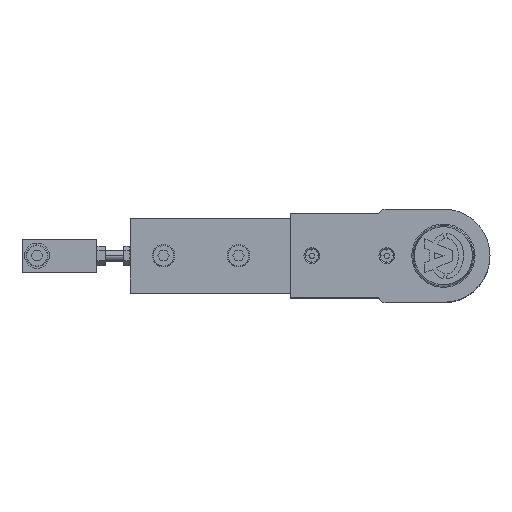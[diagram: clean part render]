
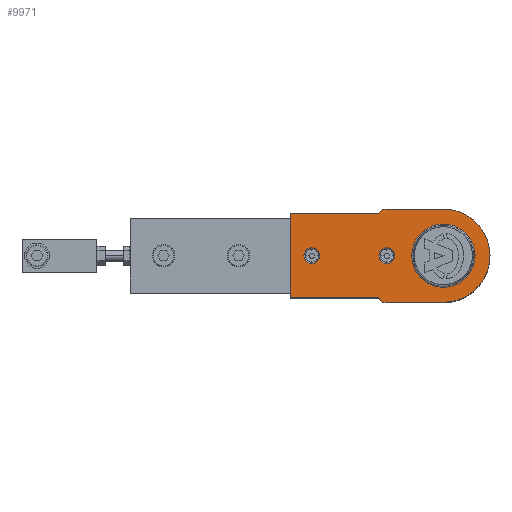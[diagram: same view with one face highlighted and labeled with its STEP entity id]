
A CAD part, top view. The second image highlights one B-rep face of the part: STEP entity #9971.
In plain terms, the highlighted planar face has unit normal (0, 0, 1).
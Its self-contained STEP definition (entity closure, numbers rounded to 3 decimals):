
#87 = CARTESIAN_POINT ( 'NONE',  ( 0., -28., 37. ) ) ;
#356 = DIRECTION ( 'NONE',  ( 0., 0., 1. ) ) ;
#447 = DIRECTION ( 'NONE',  ( -0.707, 0.707, 0. ) ) ;
#542 = CIRCLE ( 'NONE', #688, 28. ) ;
#666 = VERTEX_POINT ( 'NONE', #87 ) ;
#688 = AXIS2_PLACEMENT_3D ( 'NONE', #7211, #12786, #10643 ) ;
#754 = EDGE_CURVE ( 'NONE', #770, #3088, #4440, .T. ) ;
#770 = VERTEX_POINT ( 'NONE', #5959 ) ;
#839 = ORIENTED_EDGE ( 'NONE', *, *, #1164, .T. ) ;
#897 = LINE ( 'NONE', #5974, #5073 ) ;
#1029 = DIRECTION ( 'NONE',  ( 1., 0., 0. ) ) ;
#1071 = DIRECTION ( 'NONE',  ( 1., 0., 0. ) ) ;
#1086 = CARTESIAN_POINT ( 'NONE',  ( 39., -25.25, 37. ) ) ;
#1164 = EDGE_CURVE ( 'NONE', #12106, #8264, #2348, .T. ) ;
#1318 = DIRECTION ( 'NONE',  ( 1., 0., 0. ) ) ;
#1358 = CARTESIAN_POINT ( 'NONE',  ( 39., 25.25, 37. ) ) ;
#1531 = DIRECTION ( 'NONE',  ( 0., 0., 1. ) ) ;
#1768 = VECTOR ( 'NONE', #2477, 1000. ) ;
#1901 = DIRECTION ( 'NONE',  ( 0., 0., -1. ) ) ;
#1945 = VERTEX_POINT ( 'NONE', #13920 ) ;
#1961 = FACE_OUTER_BOUND ( 'NONE', #7803, .T. ) ;
#2096 = DIRECTION ( 'NONE',  ( 0., 0., 1. ) ) ;
#2321 = FACE_BOUND ( 'NONE', #5683, .T. ) ;
#2348 = LINE ( 'NONE', #13501, #8935 ) ;
#2477 = DIRECTION ( 'NONE',  ( -1., 0., 0. ) ) ;
#2557 = ORIENTED_EDGE ( 'NONE', *, *, #5885, .T. ) ;
#2619 = CARTESIAN_POINT ( 'NONE',  ( -18.996, 0., 37. ) ) ;
#2653 = CARTESIAN_POINT ( 'NONE',  ( 79., 0., 37. ) ) ;
#2691 = AXIS2_PLACEMENT_3D ( 'NONE', #8162, #1531, #11348 ) ;
#2713 = VERTEX_POINT ( 'NONE', #10089 ) ;
#3088 = VERTEX_POINT ( 'NONE', #13530 ) ;
#3596 = VERTEX_POINT ( 'NONE', #9986 ) ;
#3831 = EDGE_CURVE ( 'NONE', #6536, #7173, #5421, .T. ) ;
#3858 = CIRCLE ( 'NONE', #7197, 4.7 ) ;
#3936 = AXIS2_PLACEMENT_3D ( 'NONE', #2653, #10425, #11065 ) ;
#4253 = EDGE_CURVE ( 'NONE', #7173, #2713, #897, .T. ) ;
#4256 = EDGE_CURVE ( 'NONE', #3088, #770, #7827, .T. ) ;
#4340 = CARTESIAN_POINT ( 'NONE',  ( 0., 0., 37. ) ) ;
#4440 = CIRCLE ( 'NONE', #2691, 4.7 ) ;
#4455 = ORIENTED_EDGE ( 'NONE', *, *, #5641, .T. ) ;
#4461 = CARTESIAN_POINT ( 'NONE',  ( 92., 25.25, 37. ) ) ;
#4916 = CARTESIAN_POINT ( 'NONE',  ( 0., 28., 37. ) ) ;
#4944 = FACE_BOUND ( 'NONE', #8185, .T. ) ;
#5073 = VECTOR ( 'NONE', #447, 1000. ) ;
#5421 = LINE ( 'NONE', #1358, #1768 ) ;
#5447 = DIRECTION ( 'NONE',  ( 0., 0., -1. ) ) ;
#5495 = VERTEX_POINT ( 'NONE', #13639 ) ;
#5600 = CARTESIAN_POINT ( 'NONE',  ( 36.25, -28., 37. ) ) ;
#5632 = FACE_BOUND ( 'NONE', #6672, .T. ) ;
#5641 = EDGE_CURVE ( 'NONE', #9692, #666, #542, .T. ) ;
#5683 = EDGE_LOOP ( 'NONE', ( #8781, #12886 ) ) ;
#5833 = EDGE_CURVE ( 'NONE', #7888, #11785, #6749, .T. ) ;
#5885 = EDGE_CURVE ( 'NONE', #8264, #3596, #11068, .T. ) ;
#5941 = ORIENTED_EDGE ( 'NONE', *, *, #4253, .T. ) ;
#5959 = CARTESIAN_POINT ( 'NONE',  ( 83.7, 0., 37. ) ) ;
#5974 = CARTESIAN_POINT ( 'NONE',  ( 36.25, 28., 37. ) ) ;
#6156 = CARTESIAN_POINT ( 'NONE',  ( -28., 0., 37. ) ) ;
#6237 = CARTESIAN_POINT ( 'NONE',  ( 34., 0., 37. ) ) ;
#6367 = AXIS2_PLACEMENT_3D ( 'NONE', #13551, #356, #9263 ) ;
#6400 = ORIENTED_EDGE ( 'NONE', *, *, #7875, .T. ) ;
#6405 = CARTESIAN_POINT ( 'NONE',  ( 0., -28., 37. ) ) ;
#6432 = LINE ( 'NONE', #6405, #11602 ) ;
#6459 = DIRECTION ( 'NONE',  ( 1., 0., 0. ) ) ;
#6536 = VERTEX_POINT ( 'NONE', #4461 ) ;
#6590 = CARTESIAN_POINT ( 'NONE',  ( 92., 25.25, 37. ) ) ;
#6672 = EDGE_LOOP ( 'NONE', ( #7427, #9621 ) ) ;
#6749 = CIRCLE ( 'NONE', #11620, 18.996 ) ;
#6888 = ORIENTED_EDGE ( 'NONE', *, *, #3831, .T. ) ;
#7173 = VERTEX_POINT ( 'NONE', #10009 ) ;
#7197 = AXIS2_PLACEMENT_3D ( 'NONE', #11005, #2096, #1071 ) ;
#7211 = CARTESIAN_POINT ( 'NONE',  ( 0., 0., 37. ) ) ;
#7421 = CIRCLE ( 'NONE', #6367, 28. ) ;
#7427 = ORIENTED_EDGE ( 'NONE', *, *, #12933, .T. ) ;
#7449 = VECTOR ( 'NONE', #8684, 1000. ) ;
#7470 = CIRCLE ( 'NONE', #8113, 18.996 ) ;
#7803 = EDGE_LOOP ( 'NONE', ( #5941, #10972, #6400, #4455, #11576, #839, #2557, #9220, #6888 ) ) ;
#7827 = CIRCLE ( 'NONE', #3936, 4.7 ) ;
#7875 = EDGE_CURVE ( 'NONE', #5495, #9692, #7421, .T. ) ;
#7888 = VERTEX_POINT ( 'NONE', #2619 ) ;
#8113 = AXIS2_PLACEMENT_3D ( 'NONE', #4340, #5447, #1029 ) ;
#8162 = CARTESIAN_POINT ( 'NONE',  ( 79., 0., 37. ) ) ;
#8185 = EDGE_LOOP ( 'NONE', ( #10282, #11245 ) ) ;
#8264 = VERTEX_POINT ( 'NONE', #1086 ) ;
#8520 = DIRECTION ( 'NONE',  ( 1., 0., 0. ) ) ;
#8605 = EDGE_CURVE ( 'NONE', #1945, #13369, #14271, .T. ) ;
#8684 = DIRECTION ( 'NONE',  ( 1., 0., 0. ) ) ;
#8730 = LINE ( 'NONE', #6590, #10654 ) ;
#8781 = ORIENTED_EDGE ( 'NONE', *, *, #754, .F. ) ;
#8924 = PLANE ( 'NONE',  #11949 ) ;
#8935 = VECTOR ( 'NONE', #12215, 1000. ) ;
#9034 = DIRECTION ( 'NONE',  ( 0., 0., 1. ) ) ;
#9126 = DIRECTION ( 'NONE',  ( -1., 0., 0. ) ) ;
#9192 = EDGE_CURVE ( 'NONE', #2713, #5495, #10163, .T. ) ;
#9220 = ORIENTED_EDGE ( 'NONE', *, *, #10845, .T. ) ;
#9263 = DIRECTION ( 'NONE',  ( 1., 0., 0. ) ) ;
#9621 = ORIENTED_EDGE ( 'NONE', *, *, #5833, .T. ) ;
#9692 = VERTEX_POINT ( 'NONE', #6156 ) ;
#9971 = ADVANCED_FACE ( 'NONE', ( #5632, #4944, #2321, #1961 ), #8924, .T. ) ;
#9986 = CARTESIAN_POINT ( 'NONE',  ( 92., -25.25, 37. ) ) ;
#10009 = CARTESIAN_POINT ( 'NONE',  ( 39., 25.25, 37. ) ) ;
#10089 = CARTESIAN_POINT ( 'NONE',  ( 36.25, 28., 37. ) ) ;
#10097 = CARTESIAN_POINT ( 'NONE',  ( 0., 0., 37. ) ) ;
#10163 = LINE ( 'NONE', #4916, #11175 ) ;
#10282 = ORIENTED_EDGE ( 'NONE', *, *, #11997, .F. ) ;
#10425 = DIRECTION ( 'NONE',  ( 0., 0., 1. ) ) ;
#10643 = DIRECTION ( 'NONE',  ( 1., 0., 0. ) ) ;
#10654 = VECTOR ( 'NONE', #13207, 1000. ) ;
#10845 = EDGE_CURVE ( 'NONE', #3596, #6536, #8730, .T. ) ;
#10972 = ORIENTED_EDGE ( 'NONE', *, *, #9192, .T. ) ;
#11005 = CARTESIAN_POINT ( 'NONE',  ( 34., 0., 37. ) ) ;
#11065 = DIRECTION ( 'NONE',  ( 1., 0., 0. ) ) ;
#11068 = LINE ( 'NONE', #14057, #7449 ) ;
#11175 = VECTOR ( 'NONE', #9126, 1000. ) ;
#11245 = ORIENTED_EDGE ( 'NONE', *, *, #8605, .F. ) ;
#11348 = DIRECTION ( 'NONE',  ( 1., 0., 0. ) ) ;
#11576 = ORIENTED_EDGE ( 'NONE', *, *, #13409, .T. ) ;
#11602 = VECTOR ( 'NONE', #8520, 1000. ) ;
#11620 = AXIS2_PLACEMENT_3D ( 'NONE', #13000, #1901, #6459 ) ;
#11785 = VERTEX_POINT ( 'NONE', #12549 ) ;
#11949 = AXIS2_PLACEMENT_3D ( 'NONE', #10097, #9034, #1318 ) ;
#11997 = EDGE_CURVE ( 'NONE', #13369, #1945, #3858, .T. ) ;
#12106 = VERTEX_POINT ( 'NONE', #5600 ) ;
#12215 = DIRECTION ( 'NONE',  ( 0.707, 0.707, 0. ) ) ;
#12549 = CARTESIAN_POINT ( 'NONE',  ( 18.996, 0., 37. ) ) ;
#12786 = DIRECTION ( 'NONE',  ( 0., 0., 1. ) ) ;
#12868 = DIRECTION ( 'NONE',  ( 1., 0., 0. ) ) ;
#12886 = ORIENTED_EDGE ( 'NONE', *, *, #4256, .F. ) ;
#12898 = CARTESIAN_POINT ( 'NONE',  ( 38.7, 0., 37. ) ) ;
#12933 = EDGE_CURVE ( 'NONE', #11785, #7888, #7470, .T. ) ;
#13000 = CARTESIAN_POINT ( 'NONE',  ( 0., 0., 37. ) ) ;
#13207 = DIRECTION ( 'NONE',  ( 0., 1., 0. ) ) ;
#13369 = VERTEX_POINT ( 'NONE', #12898 ) ;
#13409 = EDGE_CURVE ( 'NONE', #666, #12106, #6432, .T. ) ;
#13501 = CARTESIAN_POINT ( 'NONE',  ( 36.25, -28., 37. ) ) ;
#13530 = CARTESIAN_POINT ( 'NONE',  ( 74.3, 0., 37. ) ) ;
#13551 = CARTESIAN_POINT ( 'NONE',  ( 0., 0., 37. ) ) ;
#13639 = CARTESIAN_POINT ( 'NONE',  ( 0., 28., 37. ) ) ;
#13920 = CARTESIAN_POINT ( 'NONE',  ( 29.3, 0., 37. ) ) ;
#13926 = AXIS2_PLACEMENT_3D ( 'NONE', #6237, #13969, #12868 ) ;
#13969 = DIRECTION ( 'NONE',  ( 0., 0., 1. ) ) ;
#14057 = CARTESIAN_POINT ( 'NONE',  ( 92., -25.25, 37. ) ) ;
#14271 = CIRCLE ( 'NONE', #13926, 4.7 ) ;
